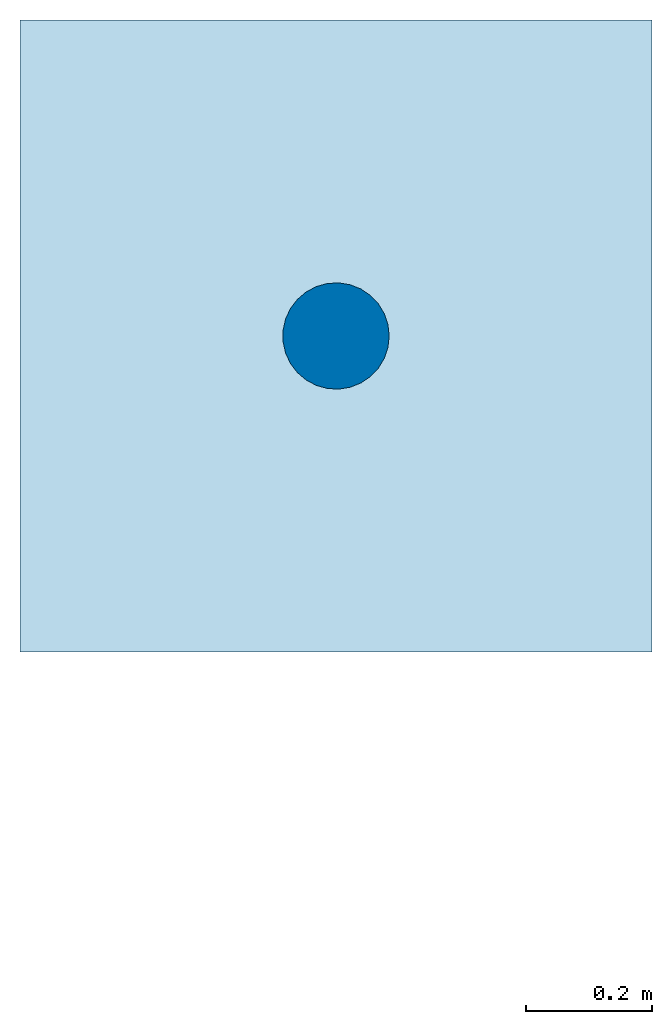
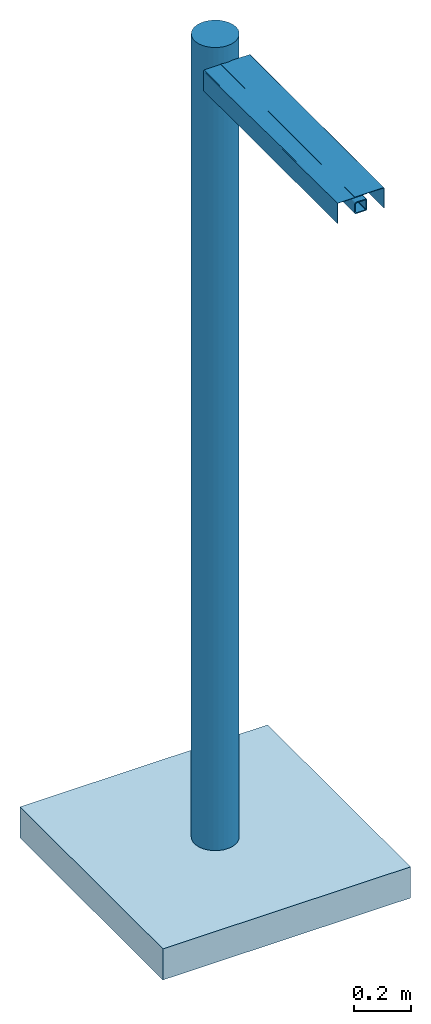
# One storey: 1 column, 1 slab.
"""IFC4 building model written with IfcOpenShell, lengths in metres."""

from ifc_helpers import new_model, entity, si_unit, converted_unit, direction, frame, frame_2d, origin, place, context, subcontext, project, spatial, polyline, circle_curve, parameter, trimmed, segment, composite_curve, rectangle, circle, outline, extrude, source, transform, mapped, material, material_profile, profile_set, type_object, type_shapes, element, save


model = new_model("IFC4")

# Units and contexts
model_context = context("Model", 3, precision=1e-05, world=origin(), true_north=direction((6.123031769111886e-17, 1.0)))
body_context = subcontext(model_context, "Body", "Model", "MODEL_VIEW")
ifc_project = project(units=[si_unit("LENGTHUNIT", "METRE"), converted_unit("PLANEANGLEUNIT", "DEGREE", entity("IfcPlaneAngleMeasure", 0.017453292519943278), si_unit("PLANEANGLEUNIT", "RADIAN"), dimensions=[0, 0, 0, 0, 0, 0, 0]), si_unit("AREAUNIT", "SQUARE_METRE")], contexts=[model_context])

# Site, building, storey
site_placement = place(None, origin())
site = spatial("IfcSite", under=ifc_project, at=site_placement, Name="Default", CompositionType="ELEMENT")
building_placement = place(site_placement, origin())
building = spatial("IfcBuilding", under=site, at=building_placement, CompositionType="ELEMENT")
storey_placement = place(building_placement, origin())
storey = spatial("IfcBuildingStorey", under=building, at=storey_placement, Name="DB_Bezugshoehe_max_Bahnsteigkante", CompositionType="ELEMENT", Elevation=0.0)

# Column
ifc_material_1 = material(Name="DB_Stahl_verzinkt_RAL9006", Category="DB_Stahl")
ifc_material_profile_1 = material_profile(ifc_material_1, circle(Radius=0.08414999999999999, at=frame_2d((-2.054097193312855e-18, -1.359480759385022e-16), x_axis=(1.0, 0.0))), Name="DB_DSA+_Mast_Premium_Typ2_einseitig")
ifc_material_profile_2 = material_profile(ifc_material_1, outline(composite_curve([segment(polyline([(-0.0002651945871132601, -0.024999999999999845), (0.01906629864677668, -0.02499999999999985)]), True, "CONTINUOUS"), segment(trimmed(circle_curve(frame_2d((0.019066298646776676, -0.01900000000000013), x_axis=(0.0, 1.0)), 0.005999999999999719), [parameter(179.99999999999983)], [parameter(269.9999999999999)], True, "PARAMETER"), True, "CONTINUOUS"), segment(polyline([(0.02506629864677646, -0.019000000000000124), (0.02506629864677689, 0.018999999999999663)]), True, "CONTINUOUS"), segment(trimmed(circle_curve(frame_2d((0.01906629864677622, 0.018999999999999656), x_axis=(0.0, 1.0)), 0.00600000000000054), [parameter(269.99999999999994)], [parameter(0.0)], True, "PARAMETER"), True, "CONTINUOUS"), segment(polyline([(0.019066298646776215, 0.0250000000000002), (-0.000265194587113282, 0.025000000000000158)]), True, "CONTINUOUS"), segment(polyline([(-0.000265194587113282, 0.025000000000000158), (-0.018933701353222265, 0.025000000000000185)]), True, "CONTINUOUS"), segment(trimmed(circle_curve(frame_2d((-0.01893370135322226, 0.01899999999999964), x_axis=(0.0, 1.0)), 0.00600000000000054), [parameter(0.0)], [parameter(90.00000000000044)], True, "PARAMETER"), True, "CONTINUOUS"), segment(polyline([(-0.024933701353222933, 0.018999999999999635), (-0.02493370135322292, -0.019000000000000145)]), True, "CONTINUOUS"), segment(trimmed(circle_curve(frame_2d((-0.018933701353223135, -0.019000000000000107), x_axis=(0.0, 1.0)), 0.005999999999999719), [parameter(90.00000000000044)], [parameter(179.99999999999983)], True, "PARAMETER"), True, "CONTINUOUS"), segment(polyline([(-0.018933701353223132, -0.024999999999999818), (-0.0002651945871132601, -0.024999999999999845)]), True, "CONTINUOUS")], self_intersect=False), holes=[composite_curve([segment(polyline([(0.017066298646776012, -0.020999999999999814), (-0.0002651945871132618, -0.02099999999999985)]), True, "CONTINUOUS"), segment(polyline([(-0.0002651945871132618, -0.02099999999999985), (-0.016933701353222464, -0.020999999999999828)]), True, "CONTINUOUS"), segment(trimmed(circle_curve(frame_2d((-0.016933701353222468, -0.016999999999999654), x_axis=(0.0, 1.0)), 0.0040000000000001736), [parameter(90.00000000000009)], [parameter(180.00000000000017)], True, "PARAMETER"), False, "CONTINUOUS"), segment(polyline([(-0.020933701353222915, -0.016999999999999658), (-0.02093370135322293, 0.01700000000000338)]), True, "CONTINUOUS"), segment(trimmed(circle_curve(frame_2d((-0.016933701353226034, 0.01700000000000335), x_axis=(0.0, 1.0)), 0.003999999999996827), [parameter(0.0)], [parameter(89.99999999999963)], True, "PARAMETER"), False, "CONTINUOUS"), segment(polyline([(-0.016933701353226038, 0.02100000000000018), (-0.00026519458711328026, 0.02100000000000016)]), True, "CONTINUOUS"), segment(polyline([(-0.00026519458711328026, 0.02100000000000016), (0.017066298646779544, 0.021000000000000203)]), True, "CONTINUOUS"), segment(trimmed(circle_curve(frame_2d((0.017066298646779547, 0.01700000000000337), x_axis=(0.0, 1.0)), 0.003999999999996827), [parameter(269.9999999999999)], [parameter(0.0)], True, "PARAMETER"), False, "CONTINUOUS"), segment(polyline([(0.021066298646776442, 0.017000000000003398), (0.021066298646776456, -0.016999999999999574)]), True, "CONTINUOUS"), segment(trimmed(circle_curve(frame_2d((0.01706629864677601, -0.016999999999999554), x_axis=(0.0, 1.0)), 0.0040000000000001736), [parameter(180.00000000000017)], [parameter(269.99999999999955)], True, "PARAMETER"), False, "CONTINUOUS")], self_intersect=False)]), Name="DB_DSA+_Mast_Premium_Typ2_einseitig")
ifc_material_profile_3 = material_profile(ifc_material_1, outline(composite_curve([segment(trimmed(circle_curve(frame_2d((0.018749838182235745, -0.02700000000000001), x_axis=(1.0, 0.0)), 0.0045000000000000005), [parameter(269.9999999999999)], [parameter(4.0711099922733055e-13)], True, "PARAMETER"), True, "CONTINUOUS"), segment(polyline([(0.02324983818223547, -0.027000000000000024), (0.023249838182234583, 0.0885)]), True, "CONTINUOUS"), segment(polyline([(0.023249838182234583, 0.0885), (0.02174983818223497, 0.0885)]), True, "CONTINUOUS"), segment(polyline([(0.02174983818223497, 0.0885), (0.02174983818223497, -0.027000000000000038)]), True, "CONTINUOUS"), segment(trimmed(circle_curve(frame_2d((0.018749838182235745, -0.02700000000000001), x_axis=(1.0, 0.0)), 0.0030000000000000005), [parameter(269.9999999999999)], [parameter(0.0)], True, "PARAMETER"), False, "CONTINUOUS"), segment(polyline([(0.018749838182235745, -0.03), (-0.06374951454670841, -0.03)]), True, "CONTINUOUS"), segment(polyline([(-0.06374951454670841, -0.03), (-0.06374951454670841, -0.0315)]), True, "CONTINUOUS"), segment(polyline([(-0.06374951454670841, -0.0315), (0.018749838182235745, -0.0315)]), True, "CONTINUOUS")], self_intersect=False)), Name="DB_DSA+_Mast_Premium_Typ2_einseitig")
ifc_material_profile_4 = material_profile(ifc_material_1, outline(composite_curve([segment(trimmed(circle_curve(frame_2d((0.01912483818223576, 0.0269999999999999), x_axis=(1.0, 0.0)), 0.0045000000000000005), [parameter(4.0711099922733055e-13)], [parameter(90.00000000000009)], True, "PARAMETER"), True, "CONTINUOUS"), segment(polyline([(0.019124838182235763, 0.03149999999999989), (-0.064874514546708, 0.03150000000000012)]), True, "CONTINUOUS"), segment(polyline([(-0.064874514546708, 0.03150000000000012), (-0.064874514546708, 0.030000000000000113)]), True, "CONTINUOUS"), segment(polyline([(-0.064874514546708, 0.030000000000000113), (0.019124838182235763, 0.03000000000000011)]), True, "CONTINUOUS"), segment(trimmed(circle_curve(frame_2d((0.01912483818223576, 0.0269999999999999), x_axis=(1.0, 0.0)), 0.0030000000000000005), [parameter(0.0)], [parameter(90.00000000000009)], True, "PARAMETER"), False, "CONTINUOUS"), segment(polyline([(0.02212483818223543, 0.0269999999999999), (0.022124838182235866, -0.08849999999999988)]), True, "CONTINUOUS"), segment(polyline([(0.022124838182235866, -0.08849999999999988), (0.02362483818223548, -0.08849999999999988)]), True, "CONTINUOUS"), segment(polyline([(0.02362483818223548, -0.08849999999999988), (0.023624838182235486, 0.026999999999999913)]), True, "CONTINUOUS")], self_intersect=False)), Name="DB_DSA+_Mast_Premium_Typ2_einseitig")
ifc_material_profile_5 = material_profile(ifc_material_1, outline(composite_curve([segment(trimmed(circle_curve(frame_2d((-0.021999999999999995, 0.007000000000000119), x_axis=(1.0, 0.0)), 0.0030000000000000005), [parameter(90.0000000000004)], [parameter(180.00000000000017)], True, "PARAMETER"), True, "CONTINUOUS"), segment(polyline([(-0.02499999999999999, 0.007000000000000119), (-0.024999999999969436, -0.0070000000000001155)]), True, "CONTINUOUS"), segment(trimmed(circle_curve(frame_2d((-0.021999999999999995, -0.0070000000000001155), x_axis=(-0.7071067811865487, -0.7071067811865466)), 0.0030000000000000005), [parameter(315.00000000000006)], [parameter(44.99999999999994)], True, "PARAMETER"), True, "CONTINUOUS"), segment(polyline([(-0.022000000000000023, -0.009999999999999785), (0.021999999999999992, -0.009999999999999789)]), True, "CONTINUOUS"), segment(trimmed(circle_curve(frame_2d((0.02200000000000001, -0.007000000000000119), x_axis=(0.7071067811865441, -0.7071067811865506)), 0.0030000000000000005), [parameter(315.0000000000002)], [parameter(45.0000000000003)], True, "PARAMETER"), True, "CONTINUOUS"), segment(polyline([(0.025, -0.007000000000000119), (0.02500000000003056, 0.0070000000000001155)]), True, "CONTINUOUS"), segment(trimmed(circle_curve(frame_2d((0.02200000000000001, 0.0070000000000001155), x_axis=(1.0, 0.0)), 0.0030000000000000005), [parameter(0.0)], [parameter(90.0000000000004)], True, "PARAMETER"), True, "CONTINUOUS"), segment(polyline([(0.022000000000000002, 0.009999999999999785), (-0.021999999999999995, 0.010000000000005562)]), True, "CONTINUOUS")], self_intersect=False), holes=[composite_curve([segment(polyline([(-0.021000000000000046, 0.008000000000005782), (0.020999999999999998, 0.00800000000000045)]), True, "CONTINUOUS"), segment(trimmed(circle_curve(frame_2d((0.021, 0.0060000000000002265), x_axis=(1.0, 0.0)), 0.002), [parameter(0.0)], [parameter(90.00000000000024)], True, "PARAMETER"), False, "CONTINUOUS"), segment(polyline([(0.02300000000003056, 0.006000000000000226), (0.023, -0.006000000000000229)]), True, "CONTINUOUS"), segment(trimmed(circle_curve(frame_2d((0.021, -0.006000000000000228), x_axis=(0.7071067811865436, -0.7071067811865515)), 0.0020000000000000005), [parameter(314.99999999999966)], [parameter(45.00000000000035)], True, "PARAMETER"), False, "CONTINUOUS"), segment(polyline([(0.020999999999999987, -0.007999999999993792), (-0.02100000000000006, -0.00800000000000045)]), True, "CONTINUOUS"), segment(trimmed(circle_curve(frame_2d((-0.021000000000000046, -0.0060000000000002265), x_axis=(-0.7071067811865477, -0.7071067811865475)), 0.0020000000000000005), [parameter(314.99999999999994)], [parameter(44.99999999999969)], True, "PARAMETER"), False, "CONTINUOUS"), segment(polyline([(-0.022999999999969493, -0.006000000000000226), (-0.023000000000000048, 0.006000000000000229)]), True, "CONTINUOUS"), segment(trimmed(circle_curve(frame_2d((-0.021000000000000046, 0.006000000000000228), x_axis=(1.0, 0.0)), 0.002), [parameter(89.99999999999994)], [parameter(180.00000000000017)], True, "PARAMETER"), False, "CONTINUOUS")], self_intersect=False)]), Name="DB_DSA+_Mast_Premium_Typ2_einseitig")
ifc_material_profile_6 = material_profile(ifc_material_1, outline(composite_curve([segment(trimmed(circle_curve(frame_2d((-0.021999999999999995, 0.007000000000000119), x_axis=(1.0, 0.0)), 0.0030000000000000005), [parameter(90.0000000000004)], [parameter(180.00000000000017)], True, "PARAMETER"), True, "CONTINUOUS"), segment(polyline([(-0.024999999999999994, 0.007000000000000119), (-0.024999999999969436, -0.0070000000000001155)]), True, "CONTINUOUS"), segment(trimmed(circle_curve(frame_2d((-0.021999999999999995, -0.0070000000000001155), x_axis=(-0.7071067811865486, -0.7071067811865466)), 0.0030000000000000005), [parameter(315.00000000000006)], [parameter(45.00000000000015)], True, "PARAMETER"), True, "CONTINUOUS"), segment(polyline([(-0.022000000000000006, -0.009999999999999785), (0.021999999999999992, -0.009999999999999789)]), True, "CONTINUOUS"), segment(trimmed(circle_curve(frame_2d((0.02200000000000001, -0.007000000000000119), x_axis=(0.7071067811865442, -0.7071067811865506)), 0.0030000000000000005), [parameter(315.0000000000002)], [parameter(45.0000000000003)], True, "PARAMETER"), True, "CONTINUOUS"), segment(polyline([(0.025, -0.007000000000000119), (0.02500000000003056, 0.0070000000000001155)]), True, "CONTINUOUS"), segment(trimmed(circle_curve(frame_2d((0.02200000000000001, 0.0070000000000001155), x_axis=(1.0, 0.0)), 0.0030000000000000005), [parameter(0.0)], [parameter(90.0000000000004)], True, "PARAMETER"), True, "CONTINUOUS"), segment(polyline([(0.022000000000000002, 0.009999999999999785), (-0.021999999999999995, 0.010000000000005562)]), True, "CONTINUOUS")], self_intersect=False), holes=[composite_curve([segment(polyline([(-0.021000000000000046, 0.008000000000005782), (0.020999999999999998, 0.00800000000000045)]), True, "CONTINUOUS"), segment(trimmed(circle_curve(frame_2d((0.021, 0.0060000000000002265), x_axis=(1.0, 0.0)), 0.002), [parameter(0.0)], [parameter(90.00000000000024)], True, "PARAMETER"), False, "CONTINUOUS"), segment(polyline([(0.02300000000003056, 0.006000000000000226), (0.023, -0.006000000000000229)]), True, "CONTINUOUS"), segment(trimmed(circle_curve(frame_2d((0.021, -0.006000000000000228), x_axis=(0.7071067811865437, -0.7071067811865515)), 0.0020000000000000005), [parameter(314.99999999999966)], [parameter(45.00000000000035)], True, "PARAMETER"), False, "CONTINUOUS"), segment(polyline([(0.020999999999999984, -0.007999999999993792), (-0.02100000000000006, -0.00800000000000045)]), True, "CONTINUOUS"), segment(trimmed(circle_curve(frame_2d((-0.021000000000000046, -0.0060000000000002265), x_axis=(-0.7071067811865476, -0.7071067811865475)), 0.0020000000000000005), [parameter(314.99999999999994)], [parameter(44.99999999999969)], True, "PARAMETER"), False, "CONTINUOUS"), segment(polyline([(-0.022999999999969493, -0.006000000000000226), (-0.02300000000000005, 0.006000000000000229)]), True, "CONTINUOUS"), segment(trimmed(circle_curve(frame_2d((-0.021000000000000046, 0.006000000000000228), x_axis=(1.0, 0.0)), 0.002), [parameter(89.99999999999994)], [parameter(180.00000000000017)], True, "PARAMETER"), False, "CONTINUOUS")], self_intersect=False)]), Name="DB_DSA+_Mast_Premium_Typ2_einseitig")
ifc_profile_set = profile_set([ifc_material_profile_1, ifc_material_profile_2, ifc_material_profile_3, ifc_material_profile_4, ifc_material_profile_5, ifc_material_profile_6], Name="DB_DSA+_Mast_Premium_Typ2_einseitig")
column_type = type_object("IfcColumnType", Name="DB_DSA+_Mast_Premium_Typ2_einseitig:DB_DSA+_Mast_Premium_Typ2_einseitig", PredefinedType="COLUMN", material=ifc_profile_set)
shared_shape = source(origin(), body_context, "Body", "SweptSolid", [
    extrude(circle(Radius=0.08414999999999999, at=frame_2d((-2.054097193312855e-18, -1.359480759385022e-16), x_axis=(1.0, 0.0))), frame((0.0, 0.0, -0.3)), (0.0, 0.0, 1.0), 3.4290000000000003),
    extrude(outline(composite_curve([segment(polyline([(-0.0002651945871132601, -0.024999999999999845), (0.01906629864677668, -0.02499999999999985)]), True, "CONTINUOUS"), segment(trimmed(circle_curve(frame_2d((0.019066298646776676, -0.01900000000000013), x_axis=(0.0, 1.0)), 0.005999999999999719), [parameter(179.99999999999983)], [parameter(269.9999999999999)], True, "PARAMETER"), True, "CONTINUOUS"), segment(polyline([(0.02506629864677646, -0.019000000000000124), (0.02506629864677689, 0.018999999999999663)]), True, "CONTINUOUS"), segment(trimmed(circle_curve(frame_2d((0.01906629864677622, 0.018999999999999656), x_axis=(0.0, 1.0)), 0.00600000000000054), [parameter(269.99999999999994)], [parameter(0.0)], True, "PARAMETER"), True, "CONTINUOUS"), segment(polyline([(0.019066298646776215, 0.0250000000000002), (-0.000265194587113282, 0.025000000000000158)]), True, "CONTINUOUS"), segment(polyline([(-0.000265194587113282, 0.025000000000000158), (-0.018933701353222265, 0.025000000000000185)]), True, "CONTINUOUS"), segment(trimmed(circle_curve(frame_2d((-0.01893370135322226, 0.01899999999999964), x_axis=(0.0, 1.0)), 0.00600000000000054), [parameter(0.0)], [parameter(90.00000000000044)], True, "PARAMETER"), True, "CONTINUOUS"), segment(polyline([(-0.024933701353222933, 0.018999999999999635), (-0.02493370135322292, -0.019000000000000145)]), True, "CONTINUOUS"), segment(trimmed(circle_curve(frame_2d((-0.018933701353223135, -0.019000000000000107), x_axis=(0.0, 1.0)), 0.005999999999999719), [parameter(90.00000000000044)], [parameter(179.99999999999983)], True, "PARAMETER"), True, "CONTINUOUS"), segment(polyline([(-0.018933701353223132, -0.024999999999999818), (-0.0002651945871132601, -0.024999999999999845)]), True, "CONTINUOUS")], self_intersect=False), holes=[composite_curve([segment(polyline([(0.017066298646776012, -0.020999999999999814), (-0.0002651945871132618, -0.02099999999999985)]), True, "CONTINUOUS"), segment(polyline([(-0.0002651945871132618, -0.02099999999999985), (-0.016933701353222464, -0.020999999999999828)]), True, "CONTINUOUS"), segment(trimmed(circle_curve(frame_2d((-0.016933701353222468, -0.016999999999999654), x_axis=(0.0, 1.0)), 0.0040000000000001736), [parameter(90.00000000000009)], [parameter(180.00000000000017)], True, "PARAMETER"), False, "CONTINUOUS"), segment(polyline([(-0.020933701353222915, -0.016999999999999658), (-0.02093370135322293, 0.01700000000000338)]), True, "CONTINUOUS"), segment(trimmed(circle_curve(frame_2d((-0.016933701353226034, 0.01700000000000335), x_axis=(0.0, 1.0)), 0.003999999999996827), [parameter(0.0)], [parameter(89.99999999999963)], True, "PARAMETER"), False, "CONTINUOUS"), segment(polyline([(-0.016933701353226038, 0.02100000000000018), (-0.00026519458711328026, 0.02100000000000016)]), True, "CONTINUOUS"), segment(polyline([(-0.00026519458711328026, 0.02100000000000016), (0.017066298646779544, 0.021000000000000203)]), True, "CONTINUOUS"), segment(trimmed(circle_curve(frame_2d((0.017066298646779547, 0.01700000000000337), x_axis=(0.0, 1.0)), 0.003999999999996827), [parameter(269.9999999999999)], [parameter(0.0)], True, "PARAMETER"), False, "CONTINUOUS"), segment(polyline([(0.021066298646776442, 0.017000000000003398), (0.021066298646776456, -0.016999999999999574)]), True, "CONTINUOUS"), segment(trimmed(circle_curve(frame_2d((0.01706629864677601, -0.016999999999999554), x_axis=(0.0, 1.0)), 0.0040000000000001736), [parameter(180.00000000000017)], [parameter(269.99999999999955)], True, "PARAMETER"), False, "CONTINUOUS")], self_intersect=False)]), frame((0.0, -1.019, 3.009933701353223), z_axis=(0.0, 1.0, 0.0), x_axis=(0.0, 0.0, 1.0)), (0.0, 0.0, 1.0), 0.9375124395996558),
    extrude(outline(composite_curve([segment(trimmed(circle_curve(frame_2d((0.018749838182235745, -0.02700000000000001), x_axis=(1.0, 0.0)), 0.0045000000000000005), [parameter(269.9999999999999)], [parameter(4.0711099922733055e-13)], True, "PARAMETER"), True, "CONTINUOUS"), segment(polyline([(0.02324983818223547, -0.027000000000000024), (0.023249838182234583, 0.0885)]), True, "CONTINUOUS"), segment(polyline([(0.023249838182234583, 0.0885), (0.02174983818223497, 0.0885)]), True, "CONTINUOUS"), segment(polyline([(0.02174983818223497, 0.0885), (0.02174983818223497, -0.027000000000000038)]), True, "CONTINUOUS"), segment(trimmed(circle_curve(frame_2d((0.018749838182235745, -0.02700000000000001), x_axis=(1.0, 0.0)), 0.0030000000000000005), [parameter(269.9999999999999)], [parameter(0.0)], True, "PARAMETER"), False, "CONTINUOUS"), segment(polyline([(0.018749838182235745, -0.03), (-0.06374951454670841, -0.03)]), True, "CONTINUOUS"), segment(polyline([(-0.06374951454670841, -0.03), (-0.06374951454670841, -0.0315)]), True, "CONTINUOUS"), segment(polyline([(-0.06374951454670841, -0.0315), (0.018749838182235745, -0.0315)]), True, "CONTINUOUS")], self_intersect=False)), frame((-0.0635000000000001, -1.019, 3.0332501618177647), z_axis=(0.0, 1.0, 0.0), x_axis=(0.0, 0.0, 1.0)), (0.0, 0.0, 1.0), 0.9375124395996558),
    extrude(outline(composite_curve([segment(trimmed(circle_curve(frame_2d((0.01912483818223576, 0.0269999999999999), x_axis=(1.0, 0.0)), 0.0045000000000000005), [parameter(4.0711099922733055e-13)], [parameter(90.00000000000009)], True, "PARAMETER"), True, "CONTINUOUS"), segment(polyline([(0.019124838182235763, 0.03149999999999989), (-0.064874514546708, 0.03150000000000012)]), True, "CONTINUOUS"), segment(polyline([(-0.064874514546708, 0.03150000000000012), (-0.064874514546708, 0.030000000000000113)]), True, "CONTINUOUS"), segment(polyline([(-0.064874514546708, 0.030000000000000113), (0.019124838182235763, 0.03000000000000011)]), True, "CONTINUOUS"), segment(trimmed(circle_curve(frame_2d((0.01912483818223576, 0.0269999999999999), x_axis=(1.0, 0.0)), 0.0030000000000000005), [parameter(0.0)], [parameter(90.00000000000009)], True, "PARAMETER"), False, "CONTINUOUS"), segment(polyline([(0.02212483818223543, 0.0269999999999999), (0.022124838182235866, -0.08849999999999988)]), True, "CONTINUOUS"), segment(polyline([(0.022124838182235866, -0.08849999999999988), (0.02362483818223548, -0.08849999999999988)]), True, "CONTINUOUS"), segment(polyline([(0.02362483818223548, -0.08849999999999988), (0.023624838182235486, 0.026999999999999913)]), True, "CONTINUOUS")], self_intersect=False)), frame((0.06349999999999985, -1.019, 3.0343751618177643), z_axis=(0.0, 1.0, 0.0), x_axis=(0.0, 0.0, 1.0)), (0.0, 0.0, 1.0), 0.9375124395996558),
    extrude(outline(composite_curve([segment(trimmed(circle_curve(frame_2d((-0.021999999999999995, 0.007000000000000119), x_axis=(1.0, 0.0)), 0.0030000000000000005), [parameter(90.0000000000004)], [parameter(180.00000000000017)], True, "PARAMETER"), True, "CONTINUOUS"), segment(polyline([(-0.02499999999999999, 0.007000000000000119), (-0.024999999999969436, -0.0070000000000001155)]), True, "CONTINUOUS"), segment(trimmed(circle_curve(frame_2d((-0.021999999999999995, -0.0070000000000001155), x_axis=(-0.7071067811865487, -0.7071067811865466)), 0.0030000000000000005), [parameter(315.00000000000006)], [parameter(44.99999999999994)], True, "PARAMETER"), True, "CONTINUOUS"), segment(polyline([(-0.022000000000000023, -0.009999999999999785), (0.021999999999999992, -0.009999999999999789)]), True, "CONTINUOUS"), segment(trimmed(circle_curve(frame_2d((0.02200000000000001, -0.007000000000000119), x_axis=(0.7071067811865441, -0.7071067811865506)), 0.0030000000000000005), [parameter(315.0000000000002)], [parameter(45.0000000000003)], True, "PARAMETER"), True, "CONTINUOUS"), segment(polyline([(0.025, -0.007000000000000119), (0.02500000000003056, 0.0070000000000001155)]), True, "CONTINUOUS"), segment(trimmed(circle_curve(frame_2d((0.02200000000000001, 0.0070000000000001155), x_axis=(1.0, 0.0)), 0.0030000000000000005), [parameter(0.0)], [parameter(90.0000000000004)], True, "PARAMETER"), True, "CONTINUOUS"), segment(polyline([(0.022000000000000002, 0.009999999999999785), (-0.021999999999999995, 0.010000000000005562)]), True, "CONTINUOUS")], self_intersect=False), holes=[composite_curve([segment(polyline([(-0.021000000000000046, 0.008000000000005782), (0.020999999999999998, 0.00800000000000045)]), True, "CONTINUOUS"), segment(trimmed(circle_curve(frame_2d((0.021, 0.0060000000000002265), x_axis=(1.0, 0.0)), 0.002), [parameter(0.0)], [parameter(90.00000000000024)], True, "PARAMETER"), False, "CONTINUOUS"), segment(polyline([(0.02300000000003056, 0.006000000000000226), (0.023, -0.006000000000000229)]), True, "CONTINUOUS"), segment(trimmed(circle_curve(frame_2d((0.021, -0.006000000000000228), x_axis=(0.7071067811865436, -0.7071067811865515)), 0.0020000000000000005), [parameter(314.99999999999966)], [parameter(45.00000000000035)], True, "PARAMETER"), False, "CONTINUOUS"), segment(polyline([(0.020999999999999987, -0.007999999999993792), (-0.02100000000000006, -0.00800000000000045)]), True, "CONTINUOUS"), segment(trimmed(circle_curve(frame_2d((-0.021000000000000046, -0.0060000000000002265), x_axis=(-0.7071067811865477, -0.7071067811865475)), 0.0020000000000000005), [parameter(314.99999999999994)], [parameter(44.99999999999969)], True, "PARAMETER"), False, "CONTINUOUS"), segment(polyline([(-0.022999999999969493, -0.006000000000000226), (-0.023000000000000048, 0.006000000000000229)]), True, "CONTINUOUS"), segment(trimmed(circle_curve(frame_2d((-0.021000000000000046, 0.006000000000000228), x_axis=(1.0, 0.0)), 0.002), [parameter(89.99999999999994)], [parameter(180.00000000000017)], True, "PARAMETER"), False, "CONTINUOUS")], self_intersect=False)]), frame((0.0, -0.8764977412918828, 3.0449999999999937), z_axis=(0.0, 1.0, 0.0), x_axis=(-1.0, 0.0, 0.0)), (0.0, 0.0, 1.0), 0.05499774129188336),
    extrude(outline(composite_curve([segment(trimmed(circle_curve(frame_2d((-0.021999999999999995, 0.007000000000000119), x_axis=(1.0, 0.0)), 0.0030000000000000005), [parameter(90.0000000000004)], [parameter(180.00000000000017)], True, "PARAMETER"), True, "CONTINUOUS"), segment(polyline([(-0.024999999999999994, 0.007000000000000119), (-0.024999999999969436, -0.0070000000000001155)]), True, "CONTINUOUS"), segment(trimmed(circle_curve(frame_2d((-0.021999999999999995, -0.0070000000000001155), x_axis=(-0.7071067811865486, -0.7071067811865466)), 0.0030000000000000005), [parameter(315.00000000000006)], [parameter(45.00000000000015)], True, "PARAMETER"), True, "CONTINUOUS"), segment(polyline([(-0.022000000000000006, -0.009999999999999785), (0.021999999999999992, -0.009999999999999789)]), True, "CONTINUOUS"), segment(trimmed(circle_curve(frame_2d((0.02200000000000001, -0.007000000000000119), x_axis=(0.7071067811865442, -0.7071067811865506)), 0.0030000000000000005), [parameter(315.0000000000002)], [parameter(45.0000000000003)], True, "PARAMETER"), True, "CONTINUOUS"), segment(polyline([(0.025, -0.007000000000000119), (0.02500000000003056, 0.0070000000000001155)]), True, "CONTINUOUS"), segment(trimmed(circle_curve(frame_2d((0.02200000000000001, 0.0070000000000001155), x_axis=(1.0, 0.0)), 0.0030000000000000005), [parameter(0.0)], [parameter(90.0000000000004)], True, "PARAMETER"), True, "CONTINUOUS"), segment(polyline([(0.022000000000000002, 0.009999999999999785), (-0.021999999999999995, 0.010000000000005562)]), True, "CONTINUOUS")], self_intersect=False), holes=[composite_curve([segment(polyline([(-0.021000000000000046, 0.008000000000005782), (0.020999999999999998, 0.00800000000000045)]), True, "CONTINUOUS"), segment(trimmed(circle_curve(frame_2d((0.021, 0.0060000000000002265), x_axis=(1.0, 0.0)), 0.002), [parameter(0.0)], [parameter(90.00000000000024)], True, "PARAMETER"), False, "CONTINUOUS"), segment(polyline([(0.02300000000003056, 0.006000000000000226), (0.023, -0.006000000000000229)]), True, "CONTINUOUS"), segment(trimmed(circle_curve(frame_2d((0.021, -0.006000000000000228), x_axis=(0.7071067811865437, -0.7071067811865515)), 0.0020000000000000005), [parameter(314.99999999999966)], [parameter(45.00000000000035)], True, "PARAMETER"), False, "CONTINUOUS"), segment(polyline([(0.020999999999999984, -0.007999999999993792), (-0.02100000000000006, -0.00800000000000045)]), True, "CONTINUOUS"), segment(trimmed(circle_curve(frame_2d((-0.021000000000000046, -0.0060000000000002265), x_axis=(-0.7071067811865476, -0.7071067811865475)), 0.0020000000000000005), [parameter(314.99999999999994)], [parameter(44.99999999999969)], True, "PARAMETER"), False, "CONTINUOUS"), segment(polyline([(-0.022999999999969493, -0.006000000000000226), (-0.02300000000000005, 0.006000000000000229)]), True, "CONTINUOUS"), segment(trimmed(circle_curve(frame_2d((-0.021000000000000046, 0.006000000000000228), x_axis=(1.0, 0.0)), 0.002), [parameter(89.99999999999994)], [parameter(180.00000000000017)], True, "PARAMETER"), False, "CONTINUOUS")], self_intersect=False)]), frame((0.0, -0.40648329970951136, 3.0449999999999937), z_axis=(0.0, 1.0, 0.0), x_axis=(-1.0, 0.0, 0.0)), (0.0, 0.0, 1.0), 0.054983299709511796),
])
type_shapes(column_type, [shared_shape])
column_placement = place(storey_placement, origin())
element("IfcColumn", 1, at=column_placement, inside=storey, type_object=column_type, Name="DB_DSA+_Mast_Premium_Typ2_einseitig:DB_DSA+_Mast_Premium_Typ2_einseitig:4970", ObjectType="DB_DSA+_Mast_Premium_Typ2_einseitig:DB_DSA+_Mast_Premium_Typ2_einseitig", PredefinedType="COLUMN", context=body_context, shape_type="MappedRepresentation", body=[
    mapped(shared_shape, transform((0.0, 0.0, 0.0), scale=1.0)),
])

# Slab
ifc_material_2 = material(Name="DB_Gusseisen_RAL7036", Category="DB_Aluminium")
slab_type = type_object("IfcSlabType", Name="DB_DSA+_Fundament:DB_DSA+_Fundament", PredefinedType="BASESLAB", material=ifc_material_2)
slab_placement = place(storey_placement, origin())
element("IfcSlab", 2, at=slab_placement, inside=storey, type_object=slab_type, Name="DB_DSA+_Fundament:DB_DSA+_Fundament", ObjectType="DB_DSA+_Fundament:DB_DSA+_Fundament", PredefinedType="BASESLAB", context=body_context, shape_type="SweptSolid", body=[
    extrude(rectangle(XDim=1.0, YDim=0.9999999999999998, at=frame_2d((0.0, 5.551115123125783e-17), x_axis=(1.0, 0.0))), frame((0.0, 0.0, -0.433), z_axis=(0.0, 0.0, 1.0), x_axis=(-1.0, 0.0, 0.0)), (0.0, 0.0, 1.0), 0.13299999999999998),
])

save(model, "model.ifc")
